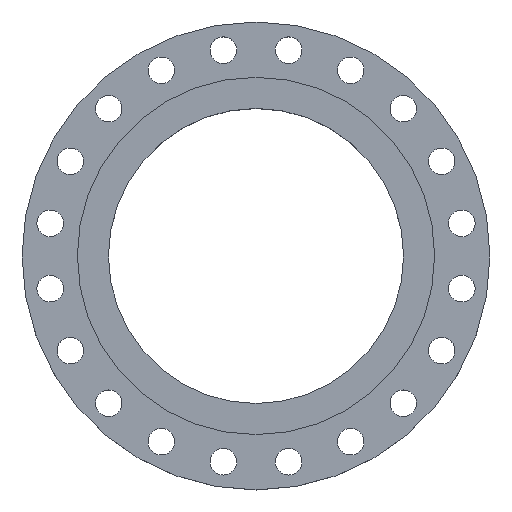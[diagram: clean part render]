
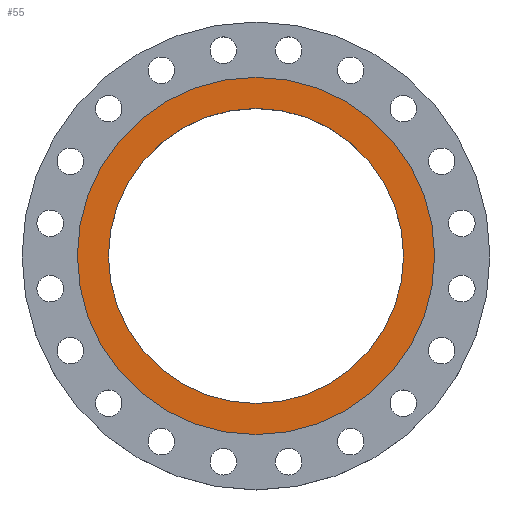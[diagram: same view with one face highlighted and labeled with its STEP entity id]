
A CAD part, top view. The second image highlights one B-rep face of the part: STEP entity #55.
In plain terms, the highlighted planar face has unit normal (0, 0, 1).
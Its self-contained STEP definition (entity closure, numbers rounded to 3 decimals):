
#1 = VERTEX_POINT ( 'NONE', #1841 ) ;
#55 = ADVANCED_FACE ( 'NONE', ( #1305, #545 ), #336, .T. ) ;
#103 = ORIENTED_EDGE ( 'NONE', *, *, #1795, .F. ) ;
#104 = AXIS2_PLACEMENT_3D ( 'NONE', #1969, #1965, #853 ) ;
#127 = ORIENTED_EDGE ( 'NONE', *, *, #834, .F. ) ;
#129 = ORIENTED_EDGE ( 'NONE', *, *, #379, .T. ) ;
#131 = ORIENTED_EDGE ( 'NONE', *, *, #643, .T. ) ;
#159 = VERTEX_POINT ( 'NONE', #641 ) ;
#218 = VERTEX_POINT ( 'NONE', #677 ) ;
#225 = DIRECTION ( 'NONE',  ( -1., 0., 0. ) ) ;
#336 = PLANE ( 'NONE',  #104 ) ;
#349 = CARTESIAN_POINT ( 'NONE',  ( 0., 0., 0. ) ) ;
#379 = EDGE_CURVE ( 'NONE', #675, #1, #629, .T. ) ;
#409 = CIRCLE ( 'NONE', #1537, 216. ) ;
#419 = AXIS2_PLACEMENT_3D ( 'NONE', #1110, #1656, #225 ) ;
#497 = DIRECTION ( 'NONE',  ( 0., 0., -1. ) ) ;
#545 = FACE_OUTER_BOUND ( 'NONE', #683, .T. ) ;
#556 = DIRECTION ( 'NONE',  ( -1., 0., 0. ) ) ;
#629 = CIRCLE ( 'NONE', #668, 216. ) ;
#637 = EDGE_LOOP ( 'NONE', ( #131, #129 ) ) ;
#641 = CARTESIAN_POINT ( 'NONE',  ( -261.5, 0., 0. ) ) ;
#643 = EDGE_CURVE ( 'NONE', #1, #675, #409, .T. ) ;
#668 = AXIS2_PLACEMENT_3D ( 'NONE', #1354, #1821, #556 ) ;
#675 = VERTEX_POINT ( 'NONE', #1124 ) ;
#677 = CARTESIAN_POINT ( 'NONE',  ( 261.5, 0., 0. ) ) ;
#683 = EDGE_LOOP ( 'NONE', ( #127, #103 ) ) ;
#834 = EDGE_CURVE ( 'NONE', #159, #218, #940, .T. ) ;
#853 = DIRECTION ( 'NONE',  ( 1., 0., 0. ) ) ;
#940 = CIRCLE ( 'NONE', #1900, 261.5 ) ;
#1021 = DIRECTION ( 'NONE',  ( 0., 0., -1. ) ) ;
#1110 = CARTESIAN_POINT ( 'NONE',  ( 0., 0., 0. ) ) ;
#1116 = DIRECTION ( 'NONE',  ( -1., 0., 0. ) ) ;
#1124 = CARTESIAN_POINT ( 'NONE',  ( 216., 0., 0. ) ) ;
#1305 = FACE_BOUND ( 'NONE', #637, .T. ) ;
#1354 = CARTESIAN_POINT ( 'NONE',  ( 0., 0., 0. ) ) ;
#1537 = AXIS2_PLACEMENT_3D ( 'NONE', #1772, #497, #1116 ) ;
#1594 = DIRECTION ( 'NONE',  ( -1., 0., 0. ) ) ;
#1656 = DIRECTION ( 'NONE',  ( 0., 0., -1. ) ) ;
#1772 = CARTESIAN_POINT ( 'NONE',  ( 0., 0., 0. ) ) ;
#1795 = EDGE_CURVE ( 'NONE', #218, #159, #2001, .T. ) ;
#1821 = DIRECTION ( 'NONE',  ( 0., 0., -1. ) ) ;
#1841 = CARTESIAN_POINT ( 'NONE',  ( -216., 0., 0. ) ) ;
#1900 = AXIS2_PLACEMENT_3D ( 'NONE', #349, #1021, #1594 ) ;
#1965 = DIRECTION ( 'NONE',  ( 0., 0., 1. ) ) ;
#1969 = CARTESIAN_POINT ( 'NONE',  ( 0., 0., 0. ) ) ;
#2001 = CIRCLE ( 'NONE', #419, 261.5 ) ;
